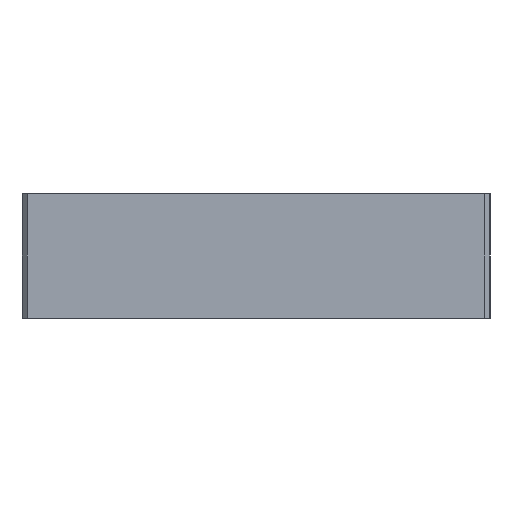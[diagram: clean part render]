
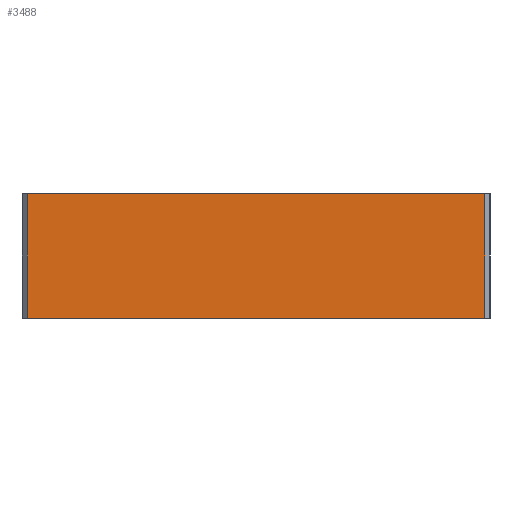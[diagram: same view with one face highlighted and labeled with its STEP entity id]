
A CAD part, left-side view. The second image highlights one B-rep face of the part: STEP entity #3488.
In plain terms, the highlighted planar face has unit normal (-1, 0, 0).
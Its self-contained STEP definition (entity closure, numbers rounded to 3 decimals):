
#137=PLANE('',#3612);
#318=FACE_OUTER_BOUND('',#524,.T.);
#524=EDGE_LOOP('',(#3099,#3100,#3101,#3102));
#818=LINE('',#6251,#1134);
#825=LINE('',#6275,#1141);
#827=LINE('',#6279,#1143);
#828=LINE('',#6280,#1144);
#1134=VECTOR('',#4051,10.);
#1141=VECTOR('',#4074,10.);
#1143=VECTOR('',#4078,10.);
#1144=VECTOR('',#4079,10.);
#1659=VERTEX_POINT('',#6247);
#1661=VERTEX_POINT('',#6250);
#1670=VERTEX_POINT('',#6273);
#1671=VERTEX_POINT('',#6278);
#2146=EDGE_CURVE('',#1661,#1659,#818,.T.);
#2156=EDGE_CURVE('',#1670,#1659,#825,.T.);
#2158=EDGE_CURVE('',#1670,#1671,#827,.T.);
#2159=EDGE_CURVE('',#1661,#1671,#828,.T.);
#3099=ORIENTED_EDGE('',*,*,#2156,.F.);
#3100=ORIENTED_EDGE('',*,*,#2158,.T.);
#3101=ORIENTED_EDGE('',*,*,#2159,.F.);
#3102=ORIENTED_EDGE('',*,*,#2146,.T.);
#3488=ADVANCED_FACE('',(#318),#137,.T.);
#3612=AXIS2_PLACEMENT_3D('',#6277,#4076,#4077);
#4051=DIRECTION('',(0.,-1.,0.));
#4074=DIRECTION('',(0.,0.,-1.));
#4076=DIRECTION('center_axis',(-1.,0.,0.));
#4077=DIRECTION('ref_axis',(0.,0.,1.));
#4078=DIRECTION('',(0.,1.,0.));
#4079=DIRECTION('',(0.,0.,1.));
#6247=CARTESIAN_POINT('',(-51.1,-17.501,0.));
#6250=CARTESIAN_POINT('',(-51.1,26.499,0.));
#6251=CARTESIAN_POINT('',(-51.1,26.999,0.));
#6273=CARTESIAN_POINT('',(-51.1,-17.501,12.));
#6275=CARTESIAN_POINT('',(-51.1,-17.501,0.));
#6277=CARTESIAN_POINT('Origin',(-51.1,-18.001,0.));
#6278=CARTESIAN_POINT('',(-51.1,26.499,12.));
#6279=CARTESIAN_POINT('',(-51.1,26.999,12.));
#6280=CARTESIAN_POINT('',(-51.1,26.499,0.));
